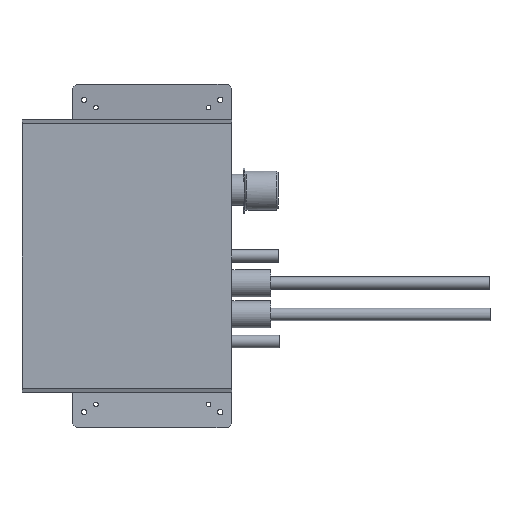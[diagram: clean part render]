
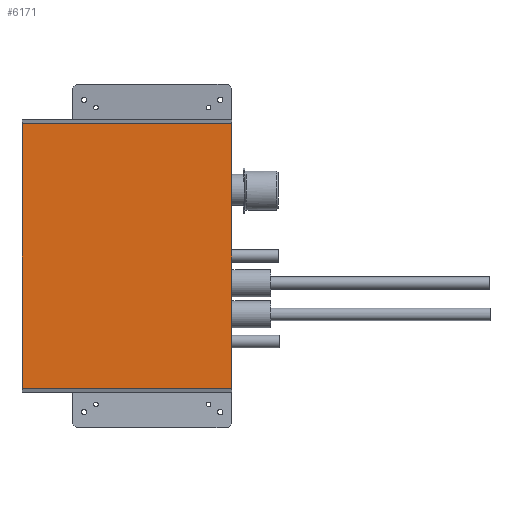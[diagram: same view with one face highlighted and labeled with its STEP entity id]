
A CAD part, left-side view. The second image highlights one B-rep face of the part: STEP entity #6171.
In plain terms, the highlighted planar face has unit normal (-1, 0, 0).
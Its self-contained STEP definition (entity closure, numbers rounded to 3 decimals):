
#183=LINE('',#9155,#773);
#384=LINE('',#9886,#974);
#385=LINE('',#9890,#975);
#388=LINE('',#9895,#978);
#773=VECTOR('',#7338,10.);
#974=VECTOR('',#7745,10.);
#975=VECTOR('',#7750,10.);
#978=VECTOR('',#7755,10.);
#1446=PLANE('',#6812);
#1876=FACE_OUTER_BOUND('',#2292,.T.);
#2292=EDGE_LOOP('',(#4769,#4770,#4771,#4772));
#2871=VERTEX_POINT('',#9152);
#2872=VERTEX_POINT('',#9154);
#3043=VERTEX_POINT('',#9884);
#3044=VERTEX_POINT('',#9889);
#3432=EDGE_CURVE('',#2872,#2871,#183,.T.);
#3681=EDGE_CURVE('',#2871,#3043,#384,.T.);
#3682=EDGE_CURVE('',#3044,#2872,#385,.T.);
#3685=EDGE_CURVE('',#3043,#3044,#388,.T.);
#4769=ORIENTED_EDGE('',*,*,#3681,.T.);
#4770=ORIENTED_EDGE('',*,*,#3685,.T.);
#4771=ORIENTED_EDGE('',*,*,#3682,.T.);
#4772=ORIENTED_EDGE('',*,*,#3432,.T.);
#6171=ADVANCED_FACE('',(#1876),#1446,.F.);
#6812=AXIS2_PLACEMENT_3D('',#9894,#7753,#7754);
#7338=DIRECTION('',(0.,0.,1.));
#7745=DIRECTION('',(0.,1.,0.));
#7750=DIRECTION('',(0.,-1.,0.));
#7753=DIRECTION('center_axis',(1.,0.,0.));
#7754=DIRECTION('ref_axis',(0.,0.,-1.));
#7755=DIRECTION('',(0.,0.,-1.));
#9152=CARTESIAN_POINT('',(0.,0.,-5.));
#9154=CARTESIAN_POINT('',(0.,0.,-345.));
#9155=CARTESIAN_POINT('',(0.,0.,-350.));
#9884=CARTESIAN_POINT('',(0.,270.,-5.));
#9886=CARTESIAN_POINT('',(0.,202.5,-5.));
#9889=CARTESIAN_POINT('',(0.,270.,-345.));
#9890=CARTESIAN_POINT('',(0.,202.5,-345.));
#9894=CARTESIAN_POINT('Origin',(0.,135.,-175.));
#9895=CARTESIAN_POINT('',(0.,270.,0.));
